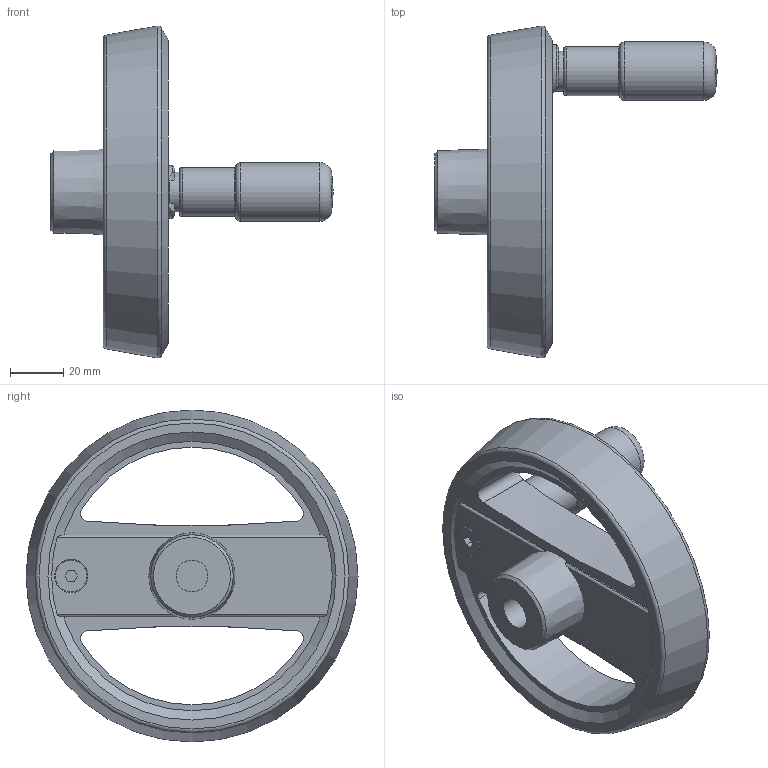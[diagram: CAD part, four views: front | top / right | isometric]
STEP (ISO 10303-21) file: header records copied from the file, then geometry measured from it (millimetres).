
FILE_DESCRIPTION( ( 'STEP AP203' ), '1' );
FILE_NAME( 'C:/Temp/Ganter_Step_05_03_2020/data/1_3/gn_924_7/gn_924_7_b/Handwheel with retractable handle GN 924.7-125-B12-R-SW (activated).stp', '2020-03-05T10:41:25', ( 'License CC BY-ND 4.0' ), ( 'CADENAS' ), ' ', 'PARTsolutions', ' ' );
FILE_SCHEMA( ( 'CONFIG_CONTROL_DESIGN' ) );
Length unit declared in the file: millimetre
Products named in the file (3): Handwheel with retractable handle GN 924.7-125-B12-R-SW (activated); _Umleggriff-Handrad GN 924.7-125-B12-R-SW-1; _Umleggriff-Handrad GN 924.7-125-B12-R-SW (90)-2
Assembly tree (2 placements, depth 2):
  Handwheel with retractable handle GN 924.7-125-B12-R-SW (activated)
    _Umleggriff-Handrad GN 924.7-125-B12-R-SW-1
    _Umleggriff-Handrad GN 924.7-125-B12-R-SW (90)-2
Bounding box: 106.3 x 125 x 125 mm (x, y, z)
Volume: 167048.2 mm3; surface area: 51599.1 mm2
Topology: 2 solids, 2 shells, 103 faces, 264 edges, 169 vertices
Faces by surface type: plane 43, cylinder 39, cone 11, torus 8, sphere 2
Full cylindrical faces by diameter (mm): 4 x4, 5 x1, 8 x1, 12 x2, 15 x1, 18.5 x1, 20 x1, 22 x1, 24 x1, 25.6 x1
Entity records: 3386 total; most frequent: CARTESIAN_POINT 975, DIRECTION 478, ORIENTED_EDGE 432, EDGE_CURVE 216, AXIS2_PLACEMENT_3D 200, VERTEX_POINT 159, EDGE_LOOP 156, FACE_OUTER_BOUND 124
